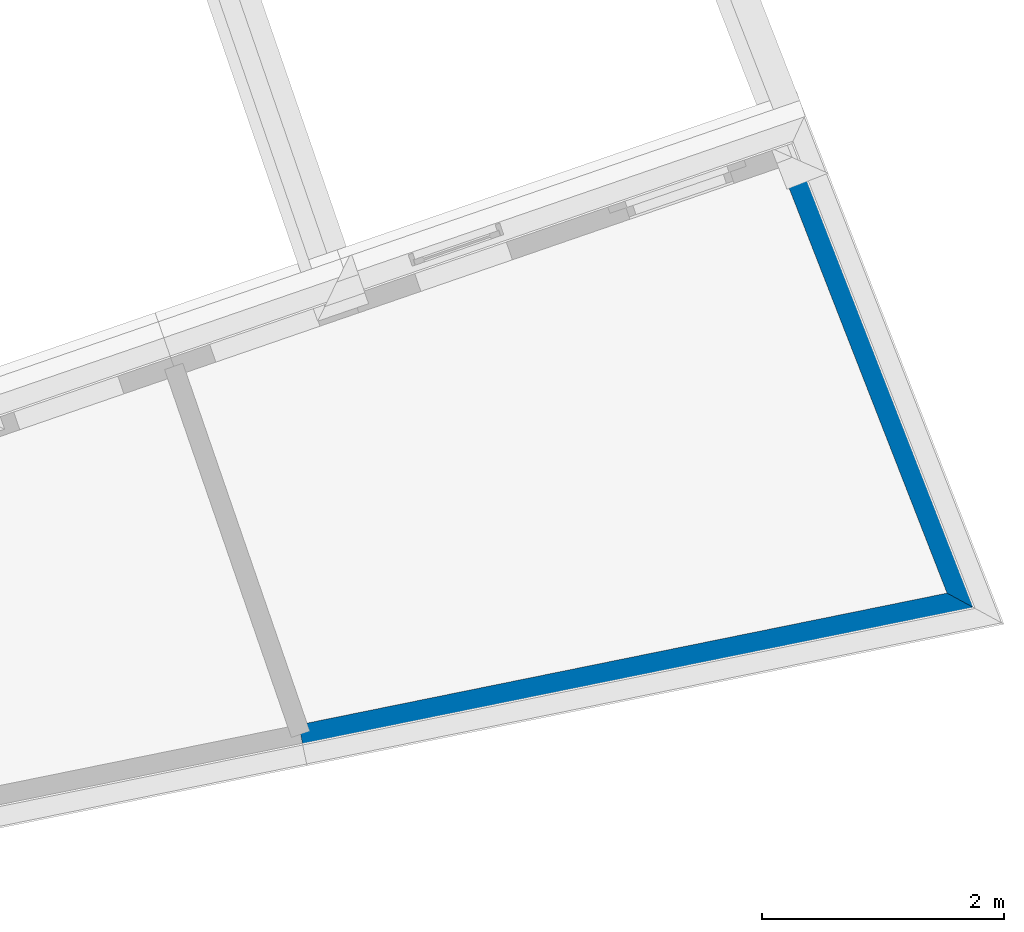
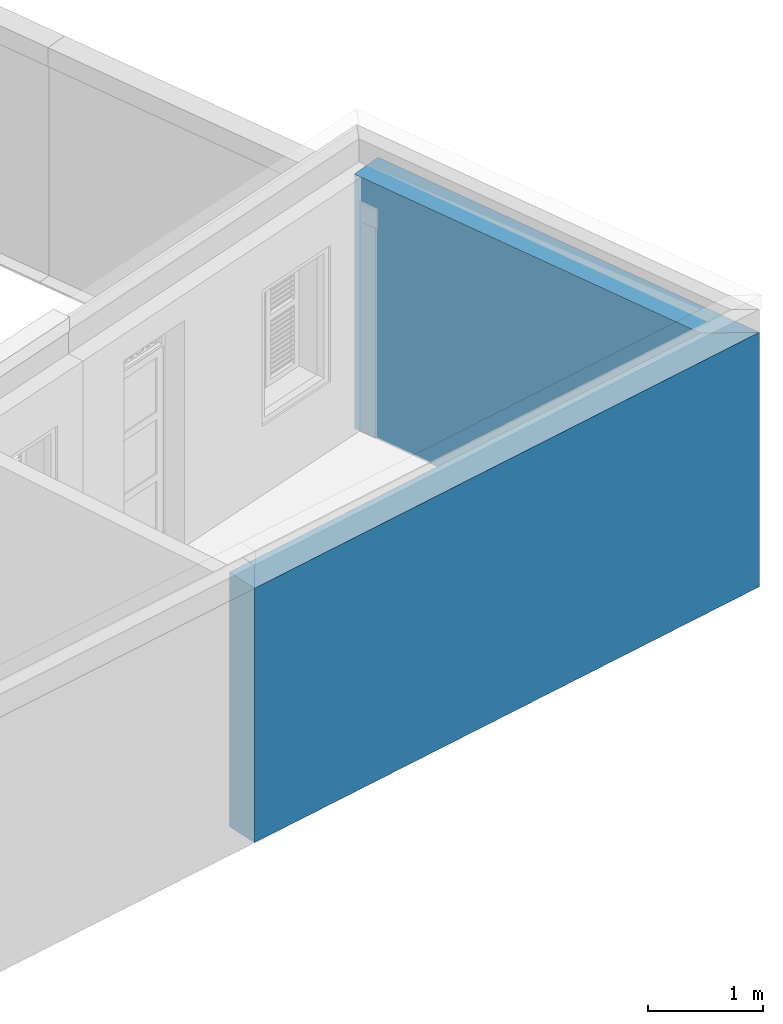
# One storey, part 7 of 16: 2 walls.
"""IFC4 building model written with IfcOpenShell, lengths in metres."""

from ifc_helpers import new_model, si_unit, frame, origin_with_axes, place, context, subcontext, project, spatial, polyline, outline, extrude, material, layer, layer_set, layer_usage, type_object, element, save


model = new_model("IFC4")

# Units and contexts
model_context = context("Model", 3, world=origin_with_axes())
body_context = subcontext(model_context, "Body", "Model", "MODEL_VIEW")
ifc_project = project(units=[si_unit("PLANEANGLEUNIT", "RADIAN"), si_unit("MASSUNIT", "GRAM", prefix="KILO"), si_unit("FORCEUNIT", "NEWTON", prefix="KILO"), si_unit("LENGTHUNIT", "METRE"), si_unit("AREAUNIT", "SQUARE_METRE"), si_unit("VOLUMEUNIT", "CUBIC_METRE")], contexts=[model_context, model_context])

# Site, building, storey
site_placement = place(None, origin_with_axes())
site = spatial("IfcSite", under=ifc_project, at=site_placement, Name="Site plot-8", CompositionType="ELEMENT")
building_placement = place(None, origin_with_axes())
building = spatial("IfcBuilding", under=site, at=building_placement, Name="Building plot-8", CompositionType="ELEMENT")
storey_placement = place(None, frame((0.0, 0.0, 3.0), z_axis=(0.0, 0.0, 1.0), x_axis=(1.0, 0.0, 0.0)))
storey = spatial("IfcBuildingStorey", under=building, at=storey_placement, Name="plot-8 1", CompositionType="ELEMENT", Elevation=3.0)

# Walls
ifc_material = material(Name="Masonry")
ifc_layer = layer(ifc_material, 0.33, ventilated=False)
ifc_layer_set = layer_set([ifc_layer], Name="party_0.08_0.25")
ifc_layer_usage = layer_usage(ifc_layer_set, "AXIS2", "POSITIVE", -0.25)
wall_type = type_object("IfcWallType", Name="party_0.08_0.25", PredefinedType="SOLIDWALL", material=ifc_layer_set)
wall_1_placement = place(storey_placement, frame((-6.90926111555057, 12.5892691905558, 0.0), z_axis=(0.0, 0.0, 1.0), x_axis=(0.979990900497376, 0.199042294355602, 0.0)))
element("IfcWall", 1, at=wall_1_placement, inside=storey, type_object=wall_type, material=ifc_layer_usage, Name="party", context=body_context, shape_type="SweptSolid", body=[
    extrude(outline(polyline([(-1.78922182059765e-15, 0.0799999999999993), (4.06762212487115e-15, -0.249999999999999), (5.8566875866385, -0.250000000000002), (5.46463031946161, 0.0800000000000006), (-1.78922182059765e-15, 0.0799999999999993)])), origin_with_axes(), (0.0, 0.0, 1.0), 2.7),
])
wall_2_placement = place(storey_placement, frame((-1.46083069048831, 13.6958795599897, 0.0), z_axis=(0.0, 0.0, 1.0), x_axis=(-0.363339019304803, 0.931656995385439, 0.0)))
element("IfcWall", 2, at=wall_2_placement, inside=storey, type_object=wall_type, material=ifc_layer_usage, Name="party", context=body_context, shape_type="SweptSolid", body=[
    extrude(outline(polyline([(0.0950441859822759, 0.08), (-0.297013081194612, -0.25), (3.94809642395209, -0.25), (3.94809642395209, 0.0799999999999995), (0.0950441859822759, 0.08)])), origin_with_axes(), (0.0, 0.0, 1.0), 2.7),
])

save(model, "model.ifc")
